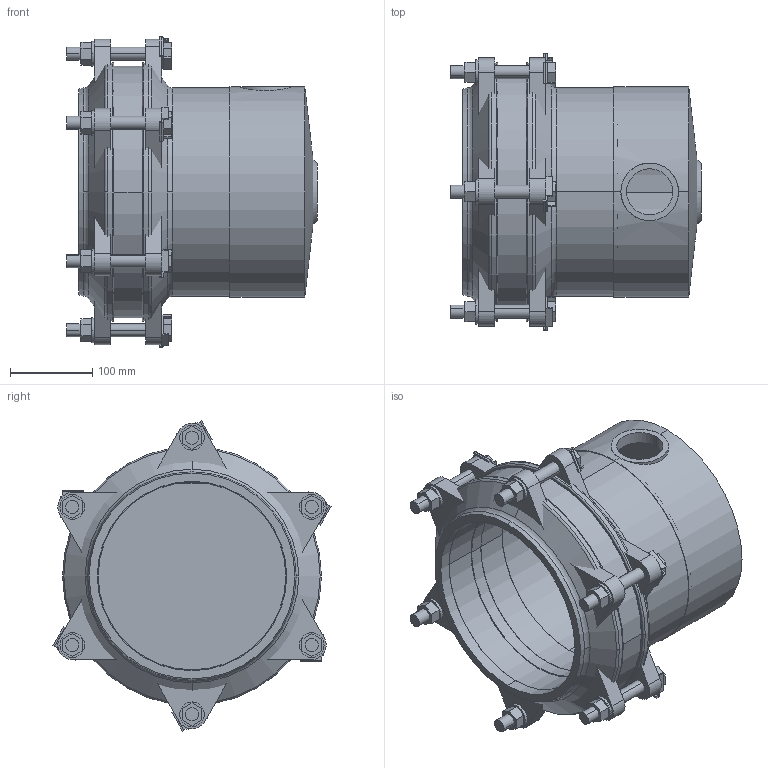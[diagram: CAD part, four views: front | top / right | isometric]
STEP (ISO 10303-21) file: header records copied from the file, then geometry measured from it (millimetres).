
FILE_DESCRIPTION(('STEP AP214'),'1');
FILE_NAME('HDA0005630 DN 200 radial.STP','2015-02-06T10:23:10',(' '),(' '),'Spatial InterOp 3D',' ',' ');
FILE_SCHEMA(('automotive_design'));
Length unit declared in the file: millimetre
Products named in the file (56): 3D-Objekt
Bounding box: 304 x 337.88 x 376.92 mm (x, y, z)
Volume: 4752692.7 mm3; surface area: 1117660.6 mm2
Topology: 56 solids, 56 shells, 409 faces, 882 edges, 584 vertices
Faces by surface type: plane 293, cylinder 88, cone 16, torus 12
Entity records: 15993 total; most frequent: CARTESIAN_POINT 2274, DIRECTION 2038, ORIENTED_EDGE 1764, EDGE_CURVE 882, AXIS2_PLACEMENT_3D 697, LINE 644, VECTOR 644, VERTEX_POINT 584
